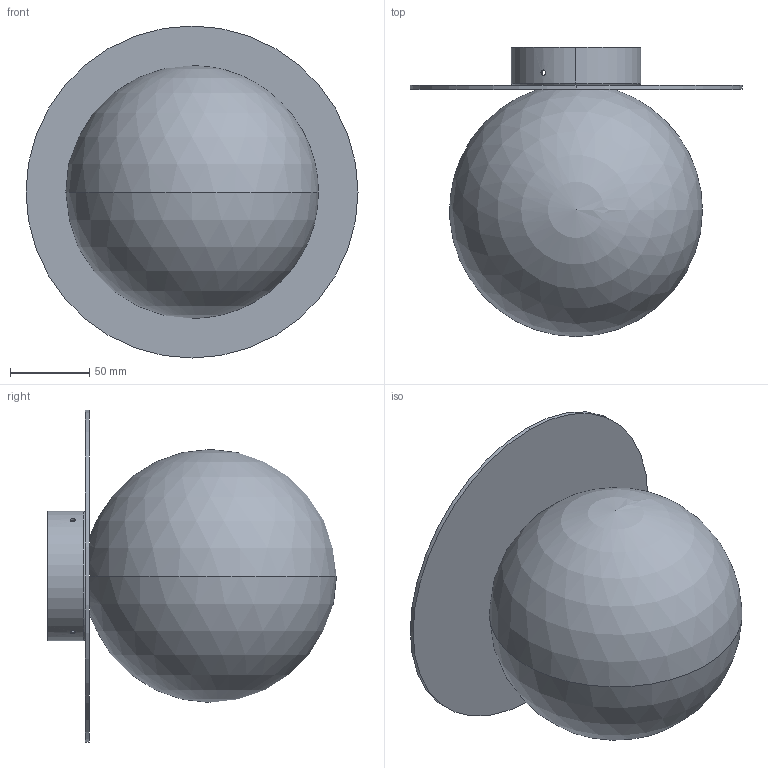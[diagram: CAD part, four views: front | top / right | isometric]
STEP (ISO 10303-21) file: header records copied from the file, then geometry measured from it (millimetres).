
FILE_DESCRIPTION (( 'STEP AP203' ), '1' );
FILE_NAME ('PLKI1601XXXXXXX-PER 3D.STEP', '2025-06-25T07:31:04', ( '' ), ( '' ), 'SwSTEP 2.0', 'SolidWorks 2024', '' );
FILE_SCHEMA (( 'CONFIG_CONTROL_DESIGN' ));
Length unit declared in the file: millimetre
Products named in the file (4): WSCM2F0029-0100-01; WSVAXXX0160BC7XX00; PLKI1601XXXXXXX-PER 3D; WSCM2C0200-0700-03_WSCM2C0200-0700-03
Assembly tree (3 placements, depth 2):
  PLKI1601XXXXXXX-PER 3D
    WSCM2C0200-0700-03_WSCM2C0200-0700-03
    WSVAXXX0160BC7XX00
    WSCM2F0029-0100-01
Bounding box: 210 x 182.79 x 210 mm (x, y, z)
Volume: 323176.5 mm3; surface area: 244103.6 mm2
Topology: 3 solids, 3 shells, 68 faces, 179 edges, 114 vertices
Faces by surface type: cylinder 37, plane 15, cone 8, sphere 4, torus 4
Entity records: 2793 total; most frequent: CARTESIAN_POINT 663, DIRECTION 387, ORIENTED_EDGE 338, EDGE_CURVE 169, AXIS2_PLACEMENT_3D 156, VERTEX_POINT 108, EDGE_LOOP 93, CIRCLE 82
